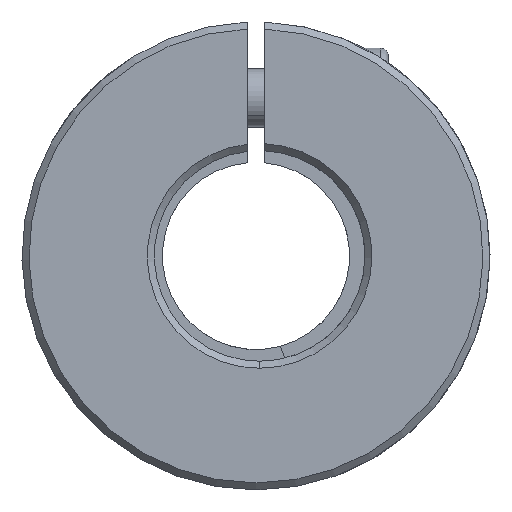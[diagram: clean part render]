
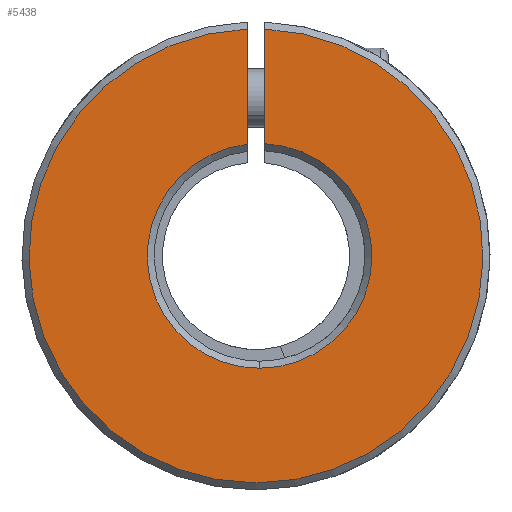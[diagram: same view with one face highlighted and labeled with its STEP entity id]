
A CAD part, front view. The second image highlights one B-rep face of the part: STEP entity #5438.
In plain terms, the highlighted planar face has unit normal (0, -1, 0).
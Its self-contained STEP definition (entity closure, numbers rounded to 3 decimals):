
#43 = CARTESIAN_POINT ( 'NONE',  ( 0., -30., 0. ) ) ;
#131 = EDGE_CURVE ( 'NONE', #1611, #3572, #1473, .T. ) ;
#175 = EDGE_CURVE ( 'NONE', #610, #1400, #2002, .T. ) ;
#445 = CARTESIAN_POINT ( 'NONE',  ( -0.75, -30., 9.541 ) ) ;
#596 = ORIENTED_EDGE ( 'NONE', *, *, #175, .T. ) ;
#610 = VERTEX_POINT ( 'NONE', #445 ) ;
#829 = DIRECTION ( 'NONE',  ( 0., 1., 0. ) ) ;
#1003 = CARTESIAN_POINT ( 'NONE',  ( 0.75, -30., -4. ) ) ;
#1110 = CIRCLE ( 'NONE', #4764, 19.4 ) ;
#1236 = DIRECTION ( 'NONE',  ( 0., 0., 1. ) ) ;
#1400 = VERTEX_POINT ( 'NONE', #2180 ) ;
#1473 = LINE ( 'NONE', #1003, #1775 ) ;
#1529 = DIRECTION ( 'NONE',  ( 0., 1., 0. ) ) ;
#1611 = VERTEX_POINT ( 'NONE', #2321 ) ;
#1775 = VECTOR ( 'NONE', #5023, 1000. ) ;
#1801 = CARTESIAN_POINT ( 'NONE',  ( 0., -30., 0. ) ) ;
#1837 = CIRCLE ( 'NONE', #5762, 9.6 ) ;
#1941 = ORIENTED_EDGE ( 'NONE', *, *, #5673, .T. ) ;
#2002 = LINE ( 'NONE', #4160, #4813 ) ;
#2063 = EDGE_CURVE ( 'NONE', #3572, #2633, #2849, .T. ) ;
#2180 = CARTESIAN_POINT ( 'NONE',  ( -0.75, -30., 19.385 ) ) ;
#2321 = CARTESIAN_POINT ( 'NONE',  ( 0.75, -30., 19.385 ) ) ;
#2624 = PLANE ( 'NONE',  #4478 ) ;
#2633 = VERTEX_POINT ( 'NONE', #5732 ) ;
#2849 = CIRCLE ( 'NONE', #3593, 9.6 ) ;
#2915 = CARTESIAN_POINT ( 'NONE',  ( 0.314, -30., 0. ) ) ;
#3032 = CARTESIAN_POINT ( 'NONE',  ( 0.314, -30., 0. ) ) ;
#3323 = DIRECTION ( 'NONE',  ( 0., 0., 1. ) ) ;
#3429 = EDGE_CURVE ( 'NONE', #2633, #610, #1837, .T. ) ;
#3572 = VERTEX_POINT ( 'NONE', #5455 ) ;
#3593 = AXIS2_PLACEMENT_3D ( 'NONE', #2915, #1529, #5193 ) ;
#3795 = ORIENTED_EDGE ( 'NONE', *, *, #131, .T. ) ;
#4038 = DIRECTION ( 'NONE',  ( 0., -1., 0. ) ) ;
#4160 = CARTESIAN_POINT ( 'NONE',  ( -0.75, -30., -4. ) ) ;
#4468 = FACE_OUTER_BOUND ( 'NONE', #4933, .T. ) ;
#4478 = AXIS2_PLACEMENT_3D ( 'NONE', #1801, #829, #4951 ) ;
#4627 = ORIENTED_EDGE ( 'NONE', *, *, #3429, .T. ) ;
#4764 = AXIS2_PLACEMENT_3D ( 'NONE', #43, #4038, #4976 ) ;
#4813 = VECTOR ( 'NONE', #3323, 1000. ) ;
#4933 = EDGE_LOOP ( 'NONE', ( #3795, #5117, #4627, #596, #1941 ) ) ;
#4951 = DIRECTION ( 'NONE',  ( 0., 0., 1. ) ) ;
#4976 = DIRECTION ( 'NONE',  ( 0., 0., 1. ) ) ;
#5023 = DIRECTION ( 'NONE',  ( 0., 0., -1. ) ) ;
#5117 = ORIENTED_EDGE ( 'NONE', *, *, #2063, .T. ) ;
#5193 = DIRECTION ( 'NONE',  ( 0., 0., 1. ) ) ;
#5342 = DIRECTION ( 'NONE',  ( 0., 1., 0. ) ) ;
#5438 = ADVANCED_FACE ( 'NONE', ( #4468 ), #2624, .F. ) ;
#5455 = CARTESIAN_POINT ( 'NONE',  ( 0.75, -30., 9.59 ) ) ;
#5673 = EDGE_CURVE ( 'NONE', #1400, #1611, #1110, .T. ) ;
#5732 = CARTESIAN_POINT ( 'NONE',  ( 0.314, -30., -9.6 ) ) ;
#5762 = AXIS2_PLACEMENT_3D ( 'NONE', #3032, #5342, #1236 ) ;
